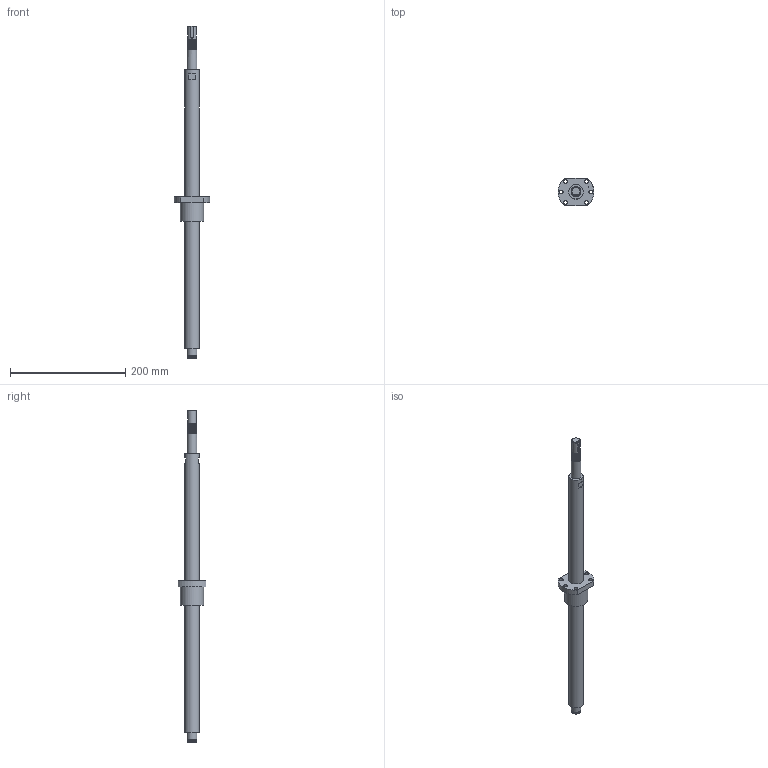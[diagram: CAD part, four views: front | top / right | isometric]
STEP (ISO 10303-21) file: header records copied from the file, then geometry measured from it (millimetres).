
FILE_DESCRIPTION(/* description */ (''),/* implementation_level */ '2;1');
FILE_NAME(/* name */ 'BSG279__G2505-575__stp.stp',/* time_stamp */ '2017-11-21T13:54:05+08:00',/* author */ (''),/* organization */ (''),/* preprocessor_version */ 'ST-DEVELOPER v15',/* originating_system */ 'SIEMENS PLM Software NX 8.5',/* authorisation */ '');
FILE_SCHEMA (('AUTOMOTIVE_DESIGN { 1 0 10303 214 3 1 1 1 }'));
Length unit declared in the file: millimetre
Products named in the file (3): 01; BSG279; BSG279__G2505-575__stp
Assembly tree (2 placements, depth 2):
  BSG279__G2505-575__stp
    BSG279
    01
Bounding box: 61.8 x 48 x 575 mm (x, y, z)
Volume: 299525.5 mm3; surface area: 58935.1 mm2
Topology: 2 solids, 2 shells, 65 faces, 163 edges, 111 vertices
Faces by surface type: cylinder 37, plane 24, bspline 2, cone 2
Full cylindrical faces by diameter (mm): 5 x1, 6 x1, 6.6 x6, 15 x1, 16.2 x1, 17 x19, 25 x2, 40 x1
Entity records: 4681 total; most frequent: CARTESIAN_POINT 3598, DIRECTION 212, ORIENTED_EDGE 170, AXIS2_PLACEMENT_3D 92, EDGE_LOOP 90, EDGE_CURVE 85, FACE_BOUND 69, VERTEX_POINT 67
